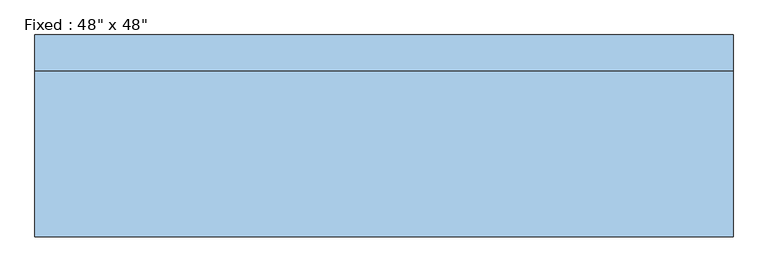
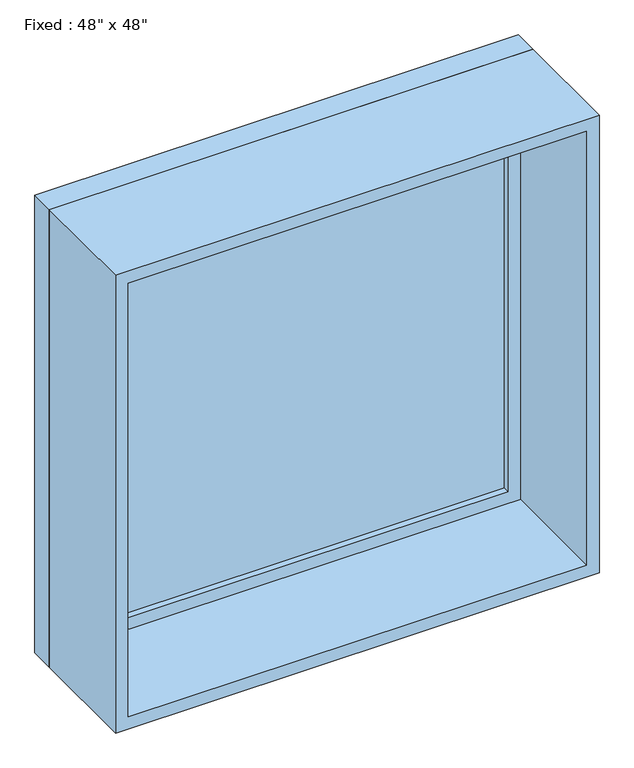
"""IFC4 building model written with IfcOpenShell, lengths in millimetres: window geometry."""

from ifc_helpers import new_model, si_unit, frame, origin, place, context, project, spatial, polyline, outline, extrude, source, transform, mapped, element, save


def window_6eb97611(model_context):
    return source(origin(), model_context, "Body", "SweptSolid", [
        extrude(outline(polyline([(508.0, 128.5875), (-584.2, 128.5875), (-584.2, 141.2875), (508.0, 141.2875), (508.0, 128.5875)])), frame((0.0, 0.0, 977.9), z_axis=(0.0, 0.0, 1.0), x_axis=(1.0, 0.0, 0.0)), (0.0, 0.0, 1.0), 1092.2),
        extrude(outline(polyline([(2114.55, -628.65), (933.45, -628.65), (933.45, 552.45), (2114.55, 552.45), (2114.55, -628.65)]), holes=[polyline([(2070.1, -584.2), (2070.1, 508.0), (977.9, 508.0), (977.9, -584.2), (2070.1, -584.2)])]), frame((0.0, 112.7125, 0.0), z_axis=(0.0, 1.0, 0.0), x_axis=(0.0, 0.0, 1.0)), (0.0, 0.0, 1.0), 44.45),
        extrude(outline(polyline([(2133.6, -647.7), (914.4, -647.7), (914.4, 571.5), (2133.6, 571.5), (2133.6, -647.7)]), holes=[polyline([(2101.85, -615.95), (2101.85, 539.75), (946.15, 539.75), (946.15, -615.95), (2101.85, -615.95)])]), frame((0.0, -176.2125, 0.0), z_axis=(0.0, 1.0, 0.0), x_axis=(0.0, 0.0, 1.0)), (0.0, 0.0, 1.0), 288.925),
        extrude(outline(polyline([(2133.6, 571.5), (2133.6, -647.7), (914.4, -647.7), (914.4, 571.5), (2133.6, 571.5)]), holes=[polyline([(2114.55, 552.45), (933.45, 552.45), (933.45, -628.65), (2114.55, -628.65), (2114.55, 552.45)])]), frame((0.0, 112.7125, 0.0), z_axis=(0.0, 1.0, 0.0), x_axis=(0.0, 0.0, 1.0)), (0.0, 0.0, 1.0), 63.5),
    ])


if __name__ == "__main__":
    model = new_model("IFC4")
    model_context = context("Model", 3, world=origin())
    ifc_project = project(units=[si_unit("LENGTHUNIT", "METRE", prefix="MILLI")], contexts=[model_context])
    site = spatial("IfcSite", under=ifc_project)
    building = spatial("IfcBuilding", under=site)
    placement = place(None, origin())
    window_shape = window_6eb97611(model_context)
    element("IfcWindow", 1, ObjectType="Fixed : 48\" x 48\"", at=placement, inside=building, context=model_context, shape_type="MappedRepresentation", body=[
        mapped(window_shape, transform((0.0, 0.0, 0.0), x_axis=(1.0, 0.0, 0.0), y_axis=(0.0, 1.0, 0.0), z_axis=(0.0, 0.0, 1.0))),
    ])
    save(model, "model.ifc")
